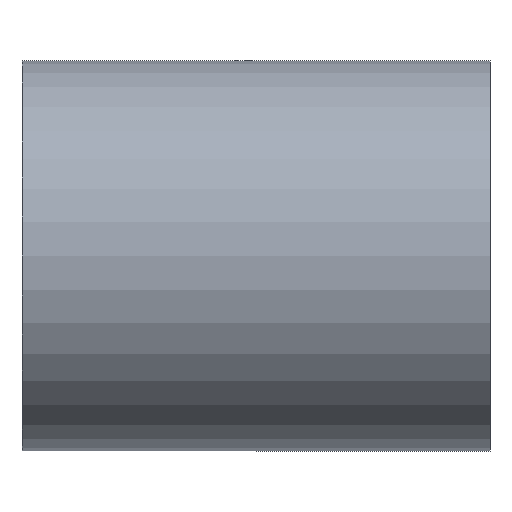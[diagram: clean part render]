
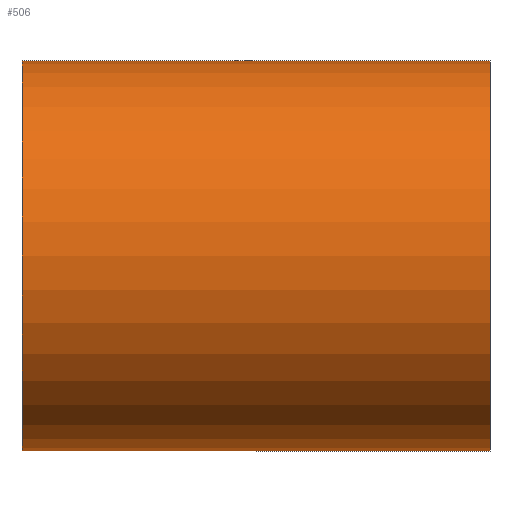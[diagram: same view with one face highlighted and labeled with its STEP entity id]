
A CAD part, front view. The second image highlights one B-rep face of the part: STEP entity #506.
In plain terms, the highlighted cylindrical face has radius 12.5 mm (diameter 25 mm), a partial arc.
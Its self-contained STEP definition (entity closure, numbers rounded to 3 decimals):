
#56 = DIRECTION ( 'NONE',  ( 0., 0., 1. ) ) ;
#78 = ORIENTED_EDGE ( 'NONE', *, *, #660, .T. ) ;
#84 = AXIS2_PLACEMENT_3D ( 'NONE', #235, #408, #401 ) ;
#96 = DIRECTION ( 'NONE',  ( 0., 0., 1. ) ) ;
#108 = CYLINDRICAL_SURFACE ( 'NONE', #425, 12.5 ) ;
#124 = DIRECTION ( 'NONE',  ( -1., 0., 0. ) ) ;
#135 = VERTEX_POINT ( 'NONE', #163 ) ;
#148 = CARTESIAN_POINT ( 'NONE',  ( 15., 0., -12.5 ) ) ;
#157 = FACE_OUTER_BOUND ( 'NONE', #376, .T. ) ;
#163 = CARTESIAN_POINT ( 'NONE',  ( -15., 0., 12.5 ) ) ;
#213 = ORIENTED_EDGE ( 'NONE', *, *, #259, .F. ) ;
#235 = CARTESIAN_POINT ( 'NONE',  ( -15., 0., 0. ) ) ;
#243 = VECTOR ( 'NONE', #124, 1000. ) ;
#259 = EDGE_CURVE ( 'NONE', #358, #522, #404, .T. ) ;
#276 = AXIS2_PLACEMENT_3D ( 'NONE', #554, #460, #56 ) ;
#280 = VERTEX_POINT ( 'NONE', #292 ) ;
#292 = CARTESIAN_POINT ( 'NONE',  ( 15., 0., 12.5 ) ) ;
#358 = VERTEX_POINT ( 'NONE', #148 ) ;
#363 = ORIENTED_EDGE ( 'NONE', *, *, #626, .T. ) ;
#376 = EDGE_LOOP ( 'NONE', ( #213, #78, #363, #646 ) ) ;
#390 = VECTOR ( 'NONE', #454, 1000. ) ;
#401 = DIRECTION ( 'NONE',  ( 0., 0., 1. ) ) ;
#404 = LINE ( 'NONE', #557, #390 ) ;
#408 = DIRECTION ( 'NONE',  ( -1., 0., 0. ) ) ;
#425 = AXIS2_PLACEMENT_3D ( 'NONE', #446, #667, #96 ) ;
#427 = CIRCLE ( 'NONE', #276, 12.5 ) ;
#432 = CARTESIAN_POINT ( 'NONE',  ( -15., 0., -12.5 ) ) ;
#446 = CARTESIAN_POINT ( 'NONE',  ( 0., 0., 0. ) ) ;
#454 = DIRECTION ( 'NONE',  ( -1., 0., 0. ) ) ;
#460 = DIRECTION ( 'NONE',  ( -1., 0., 0. ) ) ;
#506 = ADVANCED_FACE ( 'NONE', ( #157 ), #108, .T. ) ;
#522 = VERTEX_POINT ( 'NONE', #432 ) ;
#554 = CARTESIAN_POINT ( 'NONE',  ( 15., 0., 0. ) ) ;
#557 = CARTESIAN_POINT ( 'NONE',  ( 0., 0., -12.5 ) ) ;
#619 = CARTESIAN_POINT ( 'NONE',  ( 0., 0., 12.5 ) ) ;
#626 = EDGE_CURVE ( 'NONE', #280, #135, #680, .T. ) ;
#631 = EDGE_CURVE ( 'NONE', #522, #135, #675, .T. ) ;
#646 = ORIENTED_EDGE ( 'NONE', *, *, #631, .F. ) ;
#660 = EDGE_CURVE ( 'NONE', #358, #280, #427, .T. ) ;
#667 = DIRECTION ( 'NONE',  ( -1., 0., 0. ) ) ;
#675 = CIRCLE ( 'NONE', #84, 12.5 ) ;
#680 = LINE ( 'NONE', #619, #243 ) ;
